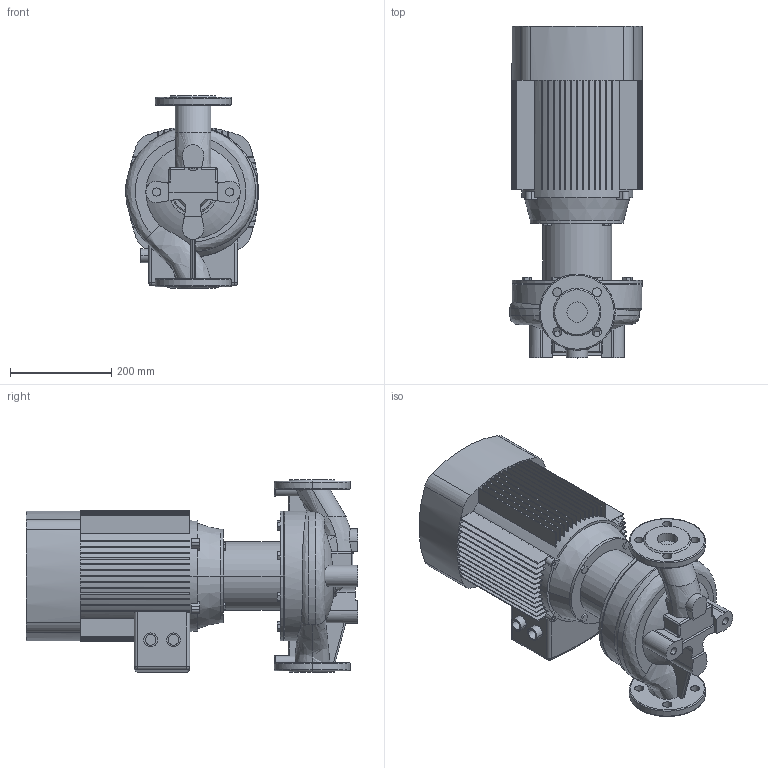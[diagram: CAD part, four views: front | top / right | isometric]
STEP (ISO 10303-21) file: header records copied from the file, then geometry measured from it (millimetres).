
FILE_DESCRIPTION (( 'STEP AP203' ), '1' );
FILE_NAME ('TD40-36G_2.STEP', '2022-05-02T14:04:41', ( '' ), ( '' ), 'SwSTEP 2.0', 'SolidWorks 2019', '' );
FILE_SCHEMA (( 'CONFIG_CONTROL_DESIGN' ));
Length unit declared in the file: millimetre
Products named in the file (4): Fon_40_TD40-36G_2; ED_B14_YE2-132S1-2 (5.5); Pr_ch 40_TD40-36G_2; TD40-36G_2
Assembly tree (3 placements, depth 2):
  TD40-36G_2
    Pr_ch 40_TD40-36G_2
    Fon_40_TD40-36G_2
    ED_B14_YE2-132S1-2 (5.5)
Bounding box: 261.26 x 654 x 380 mm (x, y, z)
Volume: 25143496.9 mm3; surface area: 1472729.1 mm2
Topology: 3 solids, 4 shells, 627 faces, 1705 edges, 1115 vertices
Faces by surface type: plane 401, cylinder 159, bspline 27, torus 23, cone 11, sphere 6
Entity records: 25966 total; most frequent: CARTESIAN_POINT 9564, ORIENTED_EDGE 3402, DIRECTION 3339, EDGE_CURVE 1701, AXIS2_PLACEMENT_3D 1197, VERTEX_POINT 1115, LINE 945, VECTOR 945
